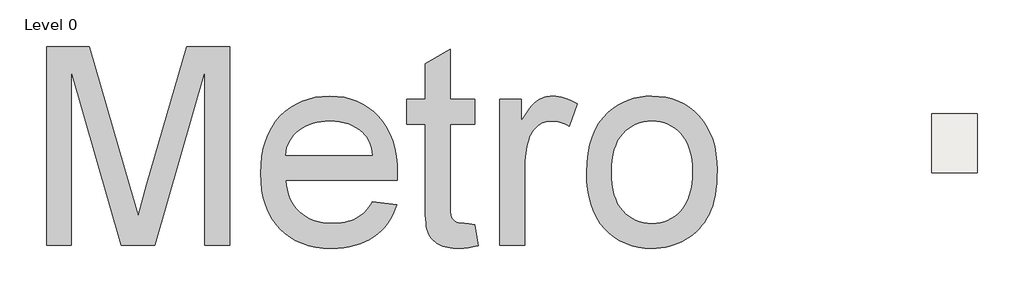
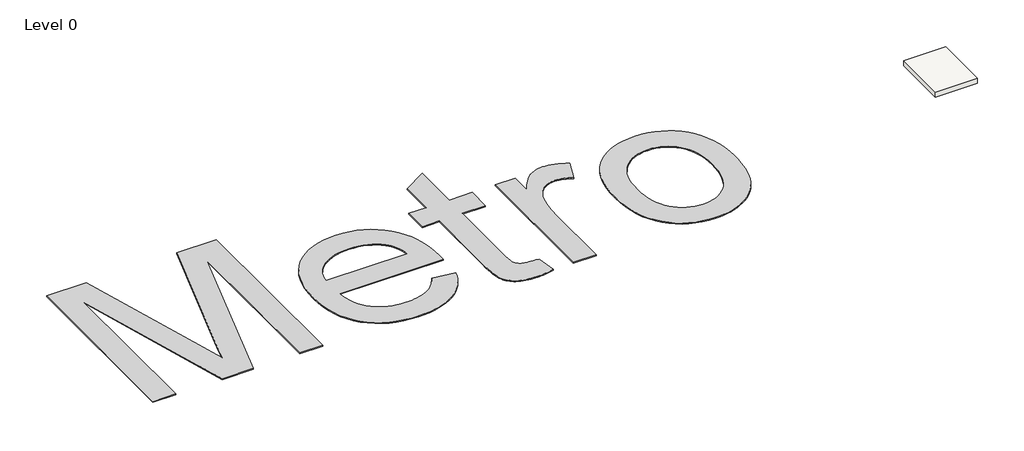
# One storey, incomplete: 1 proxy, 1 slab.
"""IFC4 building model written with IfcOpenShell, lengths in millimetres."""

from ifc_helpers import new_model, si_unit, frame, origin, origin_with_axes, place, context, project, spatial, polyline, outline, extrude, element, save

model = new_model("IFC4")

# Units and contexts
model_context = context("Model", 3, world=origin())
ifc_project = project(units=[si_unit("LENGTHUNIT", "METRE", prefix="MILLI")], contexts=[model_context])

# Site, building, storey
site = spatial("IfcSite", under=ifc_project)
building = spatial("IfcBuilding", under=site)
storey = spatial("IfcBuildingStorey", under=building, Name="Level 0", Elevation=0.0)

# Proxy
placement = place(None, origin())
element("IfcBuildingElementProxy", 1, Name="10 mm", ObjectType="10 mm", at=placement, inside=storey, context=model_context, shape_type="SweptSolid", body=[
    extrude(outline(polyline([(-149818.002246, 70710.4267394), (-149818.002246, 80756.0577544), (-147657.308661, 80756.0577544), (-145602.0745813, 73675.5556205), (-145356.2067812, 72811.6460685), (-145187.5942001, 72196.6699999), (-145003.0400658, 72869.2809144), (-144738.7781659, 73798.1829523), (-142717.8797391, 80756.0577544), (-140557.1861541, 80756.0577544), (-140557.1861541, 70710.4267394), (-141812.890031, 70710.4267394), (-141812.890031, 79500.3538775), (-144336.5605179, 70710.4267394), (-146038.6278822, 70710.4267394), (-148562.2983692, 79500.3538775), (-148562.2983692, 70710.4267394), (-149818.002246, 70710.4267394)])), origin_with_axes(), (0.0, 0.0, 1.0), 50.0),
    extrude(outline(polyline([(-133351.6041419, 72907.9085239), (-132120.4257314, 72750.9455393), (-132206.5522714, 72497.0686416), (-132309.1951802, 72257.8303816), (-132428.3544577, 72033.2307594), (-132564.0301039, 71823.2697748), (-132716.2221189, 71627.947428), (-132884.9305026, 71447.2637189), (-133070.1552551, 71281.2186476), (-133271.8963763, 71129.8122139), (-133489.1575192, 70994.7305438), (-133720.9423367, 70877.6597631), (-133967.2508287, 70778.5998716), (-134228.0829954, 70697.5508696), (-134503.4388367, 70634.5127569), (-134793.3183526, 70589.4855335), (-135097.7215431, 70562.4691995), (-135416.6484082, 70553.4637548), (-135816.835041, 70569.002937), (-136195.7918171, 70615.6204836), (-136553.5187364, 70693.3163945), (-136890.0157989, 70802.0906699), (-137205.2830045, 70941.9433096), (-137499.3203534, 71112.8743137), (-137772.1278454, 71314.8836822), (-138023.7054807, 71547.9714151), (-138249.6080183, 71809.1101501), (-138445.3902176, 72095.272525), (-138611.0520786, 72406.4585398), (-138746.5936012, 72742.6681944), (-138852.0147854, 73103.901489), (-138927.3156313, 73490.1584234), (-138972.4961388, 73901.4389977), (-138987.556308, 74337.7432119), (-138972.3428547, 74788.8968295), (-138926.7024946, 75214.0687812), (-138850.6352279, 75613.259067), (-138744.1410545, 75986.4676869), (-138607.2199745, 76333.6946409), (-138439.8719877, 76654.939929), (-138242.0970942, 76950.2035511), (-138013.8952941, 77219.4855074), (-137761.4362749, 77459.7584355), (-137490.8897243, 77667.9949732), (-137202.2556423, 77844.1951205), (-136895.5340288, 77988.3588773), (-136570.7248839, 78100.4862438), (-136227.8282075, 78180.5772198), (-135866.8439998, 78228.6318054), (-135487.7722606, 78244.6500006), (-135121.0973782, 78228.6701265), (-134771.5520012, 78180.730504), (-134439.1361296, 78100.8311331), (-134123.8497635, 77988.972014), (-133825.6929027, 77845.1531465), (-133544.6655473, 77669.3745307), (-133280.7676973, 77461.6361665), (-133033.9993527, 77221.938054), (-132810.6834854, 76953.2692344), (-132617.143067, 76658.6187489), (-132453.3780975, 76337.9865975), (-132319.3885771, 75991.3727802), (-132215.1745057, 75618.7772969), (-132140.7358832, 75220.2001478), (-132096.0727097, 74795.6413327), (-132081.1849852, 74345.1008518), (-132088.5426251, 74006.6494162), (-137731.8524311, 74006.6494162), (-137704.4720472, 73748.3272777), (-137659.119095, 73505.5634819), (-137595.7935745, 73278.3580289), (-137514.4954857, 73066.7109185), (-137415.2248285, 72870.6221509), (-137297.9816031, 72690.091726), (-137162.7658093, 72525.1196437), (-137009.5774473, 72375.7059042), (-136842.4019052, 72242.9234966), (-136665.2245714, 72127.84541), (-136478.0454458, 72030.4716444), (-136280.8645285, 71950.8021998), (-136073.6818194, 71888.8370763), (-135856.4973187, 71844.5762737), (-135629.3110261, 71818.0197922), (-135392.1229418, 71809.1676317), (-135215.1563737, 71813.2679831), (-135044.7810247, 71825.5690373), (-134880.9968948, 71846.0707943), (-134723.8039839, 71874.7732541), (-134573.2022921, 71911.6764168), (-134429.1918194, 71956.7802822), (-134291.7725658, 72010.0848505), (-134160.9445313, 72071.5901216), (-134036.7077158, 72142.0625163), (-133919.0621195, 72222.2684554), (-133808.0077422, 72312.207939), (-133703.544584, 72411.8809671), (-133605.6726448, 72521.2875396), (-133514.3919248, 72640.4276566), (-133429.7024238, 72769.301318), (-133351.6041419, 72907.9085239)]), holes=[polyline([(-137731.8524311, 75262.3532931), (-133336.8888621, 75262.3532931), (-133364.0584803, 75445.9110802), (-133401.4214954, 75617.6659867), (-133448.9779075, 75777.6180126), (-133506.7277165, 75925.7671577), (-133574.6709225, 76062.1134222), (-133652.8075255, 76186.6568059), (-133741.1375253, 76299.3973091), (-133839.6609222, 76400.3349315), (-134004.9778938, 76538.2906797), (-134182.097746, 76657.8523281), (-134371.020479, 76759.0198768), (-134571.7460926, 76841.7933257), (-134784.2745869, 76906.1726748), (-135008.6059619, 76952.1579242), (-135244.7402175, 76979.7490739), (-135492.6773538, 76988.9461238), (-135718.0242364, 76981.6076444), (-135934.2123901, 76959.5922062), (-136141.241815, 76922.8998093), (-136339.1125111, 76871.5304536), (-136527.8244783, 76805.4841392), (-136707.3777167, 76724.760866), (-136877.7722262, 76629.360634), (-137039.0080069, 76519.2834433), (-137186.9080653, 76396.9051983), (-137317.2954078, 76264.6018037), (-137430.1700346, 76122.3732594), (-137525.5319455, 75970.2195655), (-137603.3811406, 75808.1407218), (-137663.71762, 75636.1367286), (-137706.5413835, 75454.2075857), (-137731.8524311, 75262.3532931)])]), origin_with_axes(), (0.0, 0.0, 1.0), 50.0),
    extrude(outline(polyline([(-128157.11037, 71757.6641523), (-128000.1473854, 70673.6385399), (-128255.6720879, 70621.0620714), (-128378.2610986, 70600.4070302), (-128497.4012156, 70583.5074511), (-128613.0924388, 70570.363334), (-128725.3347684, 70560.9746789), (-128834.1282043, 70555.3414858), (-128939.4727464, 70553.4637548), (-129104.5214707, 70556.7210433), (-129259.9899347, 70566.4929088), (-129405.8781384, 70582.7793513), (-129542.1860819, 70605.5803708), (-129668.913765, 70634.8959673), (-129786.0611878, 70670.7261408), (-129893.6283504, 70713.0708913), (-129991.6152526, 70761.9302187), (-130081.363131, 70816.0778499), (-130164.213222, 70874.2875114), (-130240.1655256, 70936.5592033), (-130309.2200418, 71002.8929256), (-130371.3767706, 71073.2886782), (-130426.6357119, 71147.7464612), (-130474.9968659, 71226.2662745), (-130516.4602324, 71308.8481182), (-130552.0988007, 71405.1488947), (-130582.9855599, 71524.8255062), (-130609.1205099, 71667.8779529), (-130630.5036509, 71834.3062347), (-130647.1349828, 72024.1103516), (-130659.0145055, 72237.2903036), (-130666.1422192, 72473.8460907), (-130668.5181238, 72733.7777129), (-130668.5181238, 76831.9831392), (-131610.2960314, 76831.9831392), (-131610.2960314, 78087.687016), (-130668.5181238, 78087.687016), (-130668.5181238, 79880.4986059), (-129412.8142469, 80618.7151428), (-129412.8142469, 78087.687016), (-128157.11037, 78087.687016), (-128157.11037, 76831.9831392), (-129412.8142469, 76831.9831392), (-129412.8142469, 72770.5659124), (-129408.6755744, 72541.5593704), (-129396.2595571, 72357.3118045), (-129386.9475441, 72281.9726376), (-129375.5661949, 72217.8232146), (-129362.1155094, 72164.8635358), (-129346.5954878, 72123.0936009), (-129308.3510887, 72054.4989372), (-129285.3776245, 72023.0182019), (-129259.8366506, 71993.4151976), (-129201.0521734, 71939.842382), (-129131.9976572, 71893.7804906), (-129092.8527137, 71873.9493518), (-129049.6074187, 71856.7623648), (-129002.2617724, 71842.2195297), (-128950.8157746, 71830.3208464), (-128895.2694254, 71821.066315), (-128835.6227249, 71814.4559354), (-128704.0282695, 71809.1676317), (-128592.5906818, 71805.9486642), (-128464.291836, 71796.2917618), (-128319.1317321, 71780.1969246), (-128157.11037, 71757.6641523)])), origin_with_axes(), (0.0, 0.0, 1.0), 50.0),
    extrude(outline(polyline([(-126901.4064931, 70710.4267394), (-126901.4064931, 78087.687016), (-125802.6656009, 78087.687016), (-125802.6656009, 76996.3037637), (-125698.2024427, 77178.8652038), (-125595.7319786, 77345.1785224), (-125495.2542087, 77495.2437196), (-125396.7691329, 77629.0607954), (-125300.2767512, 77746.6297497), (-125205.7770637, 77847.9505825), (-125113.2700703, 77933.0232939), (-125022.7557711, 78001.8478838), (-124932.1648298, 78058.7546299), (-124839.4279102, 78108.0738099), (-124744.5450123, 78149.8054237), (-124647.516136, 78183.9494714), (-124548.3412815, 78210.505953), (-124447.0204487, 78229.4748683), (-124343.5536375, 78240.8562176), (-124237.9408481, 78244.6500006), (-124082.5107051, 78238.5952761), (-123926.4674255, 78220.4311026), (-123769.8110092, 78190.1574801), (-123612.5414563, 78147.7744086), (-123454.6587667, 78093.281888), (-123296.1629404, 78026.6799185), (-123137.0539775, 77947.9684999), (-122977.3318779, 77857.1476324), (-123396.7173524, 76731.4287271), (-123507.081951, 76791.784367), (-123617.4465495, 76844.0925882), (-123727.8111481, 76888.3533907), (-123838.1757466, 76924.5667746), (-123948.5403452, 76952.7327399), (-124058.9049437, 76972.8512865), (-124169.2695423, 76984.9224144), (-124279.6341408, 76988.9461238), (-124377.1037091, 76985.0756986), (-124472.0824096, 76973.4644231), (-124564.5702424, 76954.1122973), (-124654.5672076, 76927.0193212), (-124742.0733051, 76892.1854948), (-124827.0885349, 76849.6108181), (-124909.6128971, 76799.295291), (-124989.6463915, 76741.2389137), (-125065.6561767, 76676.3230699), (-125136.1094109, 76605.4291438), (-125201.0060941, 76528.5571352), (-125260.3462263, 76445.7070442), (-125314.1298076, 76356.8788708), (-125362.3568379, 76262.072615), (-125405.0273172, 76161.2882767), (-125442.1412456, 76054.525856), (-125489.8509419, 75885.1468541), (-125531.1993453, 75711.7824638), (-125566.1864559, 75534.4326853), (-125594.8122736, 75353.0975185), (-125617.0767985, 75167.7769635), (-125632.9800306, 74978.4710201), (-125642.5219699, 74785.1796885), (-125645.7026163, 74587.9029686), (-125645.7026163, 70710.4267394), (-126901.4064931, 70710.4267394)])), origin_with_axes(), (0.0, 0.0, 1.0), 50.0),
    extrude(outline(polyline([(-122506.4429241, 74399.0568777), (-122489.4667029, 74893.2833456), (-122438.5380392, 75354.477076), (-122353.656933, 75782.638069), (-122234.8233843, 76177.7663244), (-122082.0373932, 76539.8618424), (-121895.2989596, 76868.9246228), (-121674.6080835, 77164.9546658), (-121419.964765, 77427.9519713), (-121186.8961926, 77619.365572), (-120941.4116029, 77785.2573592), (-120683.5109959, 77925.6273329), (-120413.1943715, 78040.4754933), (-120130.4617298, 78129.8018403), (-119835.3130708, 78193.6063738), (-119527.7483944, 78231.8890939), (-119207.7677007, 78244.6500006), (-118853.0873042, 78229.1108184), (-118514.9999185, 78182.4932719), (-118193.5055437, 78104.7973609), (-117888.6041796, 77996.0230856), (-117600.2958264, 77856.1704458), (-117328.5804841, 77685.2394417), (-117073.4581525, 77483.2300732), (-116834.9288318, 77250.1423403), (-116619.0855674, 76989.655063), (-116432.021405, 76705.4470612), (-116273.7363445, 76397.518335), (-116144.2303858, 76065.8688842), (-116043.5035291, 75710.498709), (-115971.5557744, 75331.4078092), (-115928.3871215, 74928.596185), (-115913.9975705, 74502.0638364), (-115920.3588634, 74156.5230082), (-115939.4427419, 73829.9127743), (-115971.249206, 73522.2331348), (-116015.7782559, 73233.4840897), (-116073.0298914, 72963.6656388), (-116143.0041125, 72712.7777823), (-116225.7009194, 72480.8205202), (-116321.1203119, 72267.7938523), (-116428.7066349, 72069.9231563), (-116547.9042335, 71883.4338094), (-116678.7131075, 71708.3258118), (-116821.133257, 71544.5991635), (-116975.1646819, 71392.2538643), (-117140.8073824, 71251.2899144), (-117318.0613583, 71121.7073137), (-117506.9266096, 71003.5060622), (-117703.8392797, 70898.0273964), (-117905.2355115, 70806.6125527), (-118111.1153052, 70729.2615311), (-118321.4786606, 70665.9743317), (-118536.3255779, 70616.7509543), (-118755.656057, 70581.591399), (-118979.4700979, 70560.4956659), (-119207.7677007, 70553.4637548), (-119568.0429692, 70568.9454554), (-119910.6522377, 70615.3905573), (-120235.5955063, 70692.7990605), (-120542.8727748, 70801.1709649), (-120832.4840434, 70940.5062706), (-121104.4293121, 71110.8049775), (-121358.7085807, 71312.0670857), (-121595.3218494, 71544.2925951), (-121808.8658513, 71805.6420959), (-121993.9373196, 72094.2761779), (-122150.5362543, 72410.1948413), (-122278.6626554, 72753.398086), (-122378.316523, 73123.8859119), (-122449.4978569, 73521.6583192), (-122492.2066573, 73946.7153078), (-122506.4429241, 74399.0568777)]), holes=[polyline([(-121250.7390472, 74401.5094244), (-121241.6569605, 74086.7595527), (-121214.4107002, 73792.4347961), (-121169.0002664, 73518.5351544), (-121105.4256591, 73265.0606276), (-121023.6868783, 73032.0112157), (-120923.783924, 72819.3869188), (-120805.7167962, 72627.1877369), (-120669.4854948, 72455.4136699), (-120519.4969397, 72303.9497547), (-120360.1580506, 72172.6810282), (-120191.4688274, 72061.6074903), (-120013.4292701, 71970.7291412), (-119826.0393788, 71900.0459808), (-119629.2991535, 71849.5580091), (-119423.2085941, 71819.265226), (-119207.7677007, 71809.1676317), (-118993.4764385, 71819.3227076), (-118788.3822262, 71849.7879353), (-118592.4850637, 71900.5633148), (-118405.7849512, 71971.6488462), (-118228.2818885, 72063.0445294), (-118059.9758757, 72174.7503644), (-117900.8669128, 72306.7663512), (-117750.9549998, 72459.0924898), (-117614.7236984, 72632.2269538), (-117496.6565706, 72826.6679167), (-117396.7536163, 73042.4153784), (-117315.0148355, 73279.4693391), (-117251.4402282, 73537.8297986), (-117206.0297944, 73817.496757), (-117178.7835342, 74118.4702143), (-117169.7014474, 74440.7501705), (-117178.8410157, 74745.153361), (-117206.2597207, 75030.510994), (-117251.9575623, 75296.8230696), (-117315.9345405, 75544.0895877), (-117398.1906553, 75772.3105484), (-117498.7259068, 75981.4859516), (-117617.540295, 76171.6157973), (-117754.6338197, 76342.7000856), (-117905.2929931, 76494.1640008), (-118064.8043269, 76625.4327273), (-118233.1678213, 76736.5062651), (-118410.3834761, 76827.3846142), (-118596.4512915, 76898.0677746), (-118791.3712674, 76948.5557464), (-118995.1434038, 76978.8485294), (-119207.7677007, 76988.9461238), (-119423.2085941, 76978.8868505), (-119629.2991535, 76948.7090305), (-119826.0393788, 76898.412664), (-120013.4292701, 76827.9977509), (-120191.4688274, 76737.4642911), (-120360.1580506, 76626.8122848), (-120519.4969397, 76496.0417318), (-120669.4854948, 76345.1526322), (-120805.7167962, 76173.9533808), (-120923.783924, 75982.2523724), (-121023.6868783, 75770.0496069), (-121105.4256591, 75537.3450845), (-121169.0002664, 75284.138805), (-121214.4107002, 75010.4307685), (-121241.6569605, 74716.2209749), (-121250.7390472, 74401.5094244)])]), origin_with_axes(), (0.0, 0.0, 1.0), 50.0),
])

# Slab
element("IfcSlab", 2, ObjectType="FL_300 mm_Generic", at=placement, inside=storey, context=model_context, shape_type="SweptSolid", body=[
    extrude(outline(polyline([(-102747.8885325, 77369.9753886), (-102747.8885325, 74369.9753886), (-105047.8885325, 74369.9753886), (-105047.8885325, 77369.9753886), (-102747.8885325, 77369.9753886)])), frame((0.0, 0.0, -300.0), z_axis=(0.0, 0.0, 1.0), x_axis=(1.0, 0.0, 0.0)), (0.0, 0.0, 1.0), 300.0),
])

save(model, "model.ifc")
